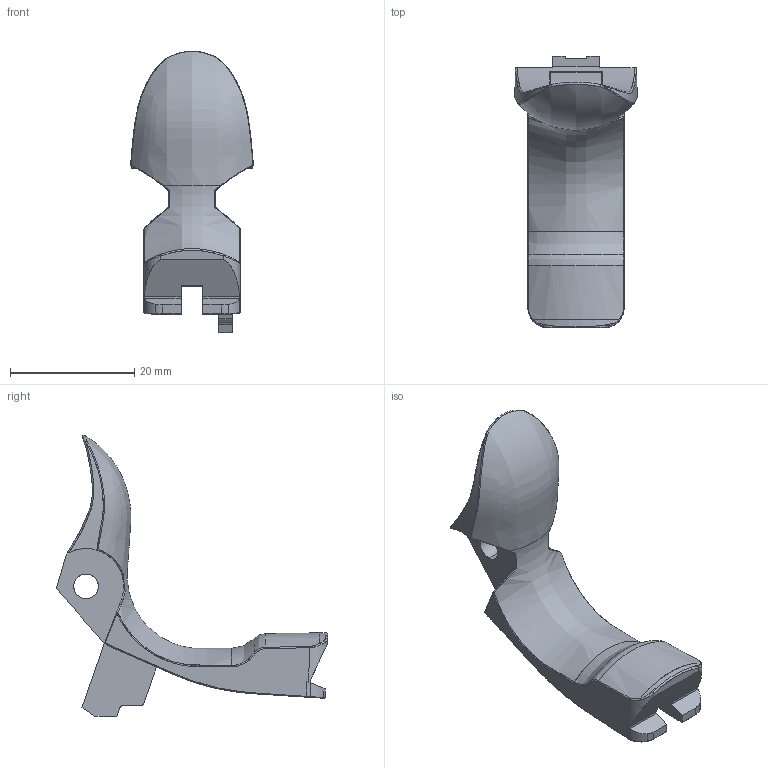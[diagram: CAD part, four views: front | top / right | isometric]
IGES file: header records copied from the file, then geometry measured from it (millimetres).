
Start section: SolidWorks IGES file using analytic representation for surfaces
Global section: file name: \\PSSILO\catalogs\CONTENTCENTRAL\Custom Beavertail Grip Safety\Cache\D321D2C0-565A-4F86-8B09-249F7B545F65.IGS; native system: SolidWorks 2009; preprocessor: SolidWorks 2009; author: partstream; date: 090731.224611; units: inch
Bounding box: 19.78 x 43.71 x 45.37 mm (x, y, z)
Surface area: 3674 mm2 (no closed solid volume)
Topology: 0 solids, 0 shells, 141 faces, 1589 edges, 1582 vertices
Faces by surface type: bspline 108, revolution 33
